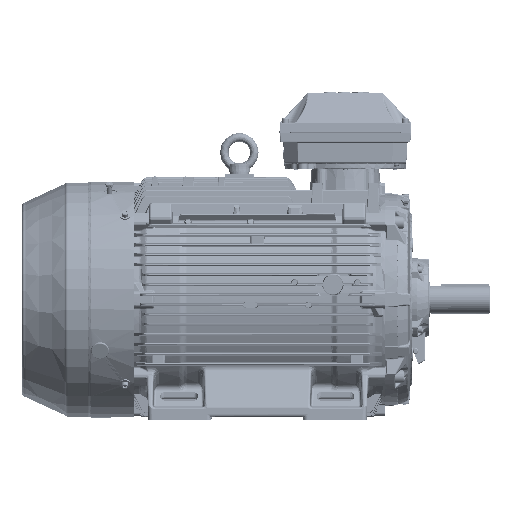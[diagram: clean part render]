
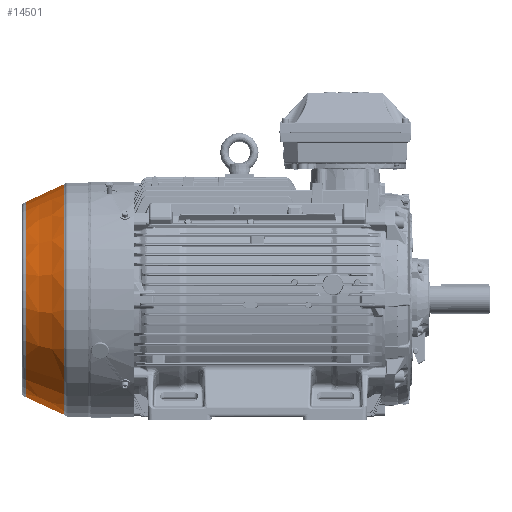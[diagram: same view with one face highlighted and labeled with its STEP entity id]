
A CAD part, left-side view. The second image highlights one B-rep face of the part: STEP entity #14501.
In plain terms, the highlighted free-form (B-spline) face has degree [3, 3] with [4, 7] control points.
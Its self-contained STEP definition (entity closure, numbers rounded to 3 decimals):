
#5226=(
BOUNDED_SURFACE()
B_SPLINE_SURFACE(3,3,((#289276,#289277,#289278,#289279,#289280,#289281,
#289282),(#289283,#289284,#289285,#289286,#289287,#289288,#289289),(#289290,
#289291,#289292,#289293,#289294,#289295,#289296),(#289297,#289298,#289299,
#289300,#289301,#289302,#289303)),.UNSPECIFIED.,.F.,.T.,.F.)
B_SPLINE_SURFACE_WITH_KNOTS((4,4),(1,3,3,3,1),(0.,1.),(-0.5,0.,0.5,1.,1.5),
 .UNSPECIFIED.)
GEOMETRIC_REPRESENTATION_ITEM()
RATIONAL_B_SPLINE_SURFACE(((1.,0.333,0.333,1.,0.333,
0.333,1.),(1.,0.333,0.333,
1.,0.333,0.333,1.),
(1.,0.333,0.333,1.,
0.333,0.333,1.),(1.,0.333,
0.333,1.,0.333,0.333,1.)))
REPRESENTATION_ITEM('')
SURFACE()
);
#8690=FACE_BOUND('',#27969,.T.);
#8691=FACE_BOUND('',#27970,.T.);
#14501=ADVANCED_FACE('',(#8690,#8691),#5226,.T.);
#27969=EDGE_LOOP('',(#62807));
#27970=EDGE_LOOP('',(#62808));
#62807=ORIENTED_EDGE('',*,*,#95713,.F.);
#62808=ORIENTED_EDGE('',*,*,#95646,.F.);
#82908=VERTEX_POINT('',#289136);
#82947=VERTEX_POINT('',#289275);
#95646=EDGE_CURVE('',#82908,#82908,#104038,.T.);
#95713=EDGE_CURVE('',#82947,#82947,#104047,.T.);
#104038=CIRCLE('',#109205,226.705);
#104047=CIRCLE('',#109247,268.577);
#109205=AXIS2_PLACEMENT_3D('',#289135,#122646,#122647);
#109247=AXIS2_PLACEMENT_3D('',#289274,#122788,#122789);
#122646=DIRECTION('',(0.,1.,0.));
#122647=DIRECTION('',(-0.707,0.,-0.707));
#122788=DIRECTION('',(0.,-1.,0.));
#122789=DIRECTION('',(-0.707,0.,-0.707));
#289135=CARTESIAN_POINT('',(0.,854.784,0.));
#289136=CARTESIAN_POINT('',(-160.305,854.784,-160.305));
#289274=CARTESIAN_POINT('',(0.,765.096,0.));
#289275=CARTESIAN_POINT('',(-189.913,765.096,-189.913));
#289276=CARTESIAN_POINT('',(0.,765.096,-268.577));
#289277=CARTESIAN_POINT('',(537.154,765.096,-268.577));
#289278=CARTESIAN_POINT('',(537.154,765.096,268.577));
#289279=CARTESIAN_POINT('',(0.,765.096,268.577));
#289280=CARTESIAN_POINT('',(-537.154,765.096,268.577));
#289281=CARTESIAN_POINT('',(-537.154,765.096,-268.577));
#289282=CARTESIAN_POINT('',(0.,765.096,-268.577));
#289283=CARTESIAN_POINT('',(0.,794.763,-254.132));
#289284=CARTESIAN_POINT('',(508.263,794.763,-254.132));
#289285=CARTESIAN_POINT('',(508.263,794.763,254.132));
#289286=CARTESIAN_POINT('',(0.,794.763,254.132));
#289287=CARTESIAN_POINT('',(-508.263,794.763,254.132));
#289288=CARTESIAN_POINT('',(-508.263,794.763,-254.132));
#289289=CARTESIAN_POINT('',(0.,794.763,-254.132));
#289290=CARTESIAN_POINT('',(0.,824.661,-240.173));
#289291=CARTESIAN_POINT('',(480.347,824.661,-240.173));
#289292=CARTESIAN_POINT('',(480.347,824.661,240.173));
#289293=CARTESIAN_POINT('',(0.,824.661,240.173));
#289294=CARTESIAN_POINT('',(-480.347,824.661,240.173));
#289295=CARTESIAN_POINT('',(-480.347,824.661,-240.173));
#289296=CARTESIAN_POINT('',(0.,824.661,-240.173));
#289297=CARTESIAN_POINT('',(0.,854.784,-226.705));
#289298=CARTESIAN_POINT('',(453.411,854.784,-226.705));
#289299=CARTESIAN_POINT('',(453.411,854.784,226.705));
#289300=CARTESIAN_POINT('',(0.,854.784,226.705));
#289301=CARTESIAN_POINT('',(-453.411,854.784,226.705));
#289302=CARTESIAN_POINT('',(-453.411,854.784,-226.705));
#289303=CARTESIAN_POINT('',(0.,854.784,-226.705));
